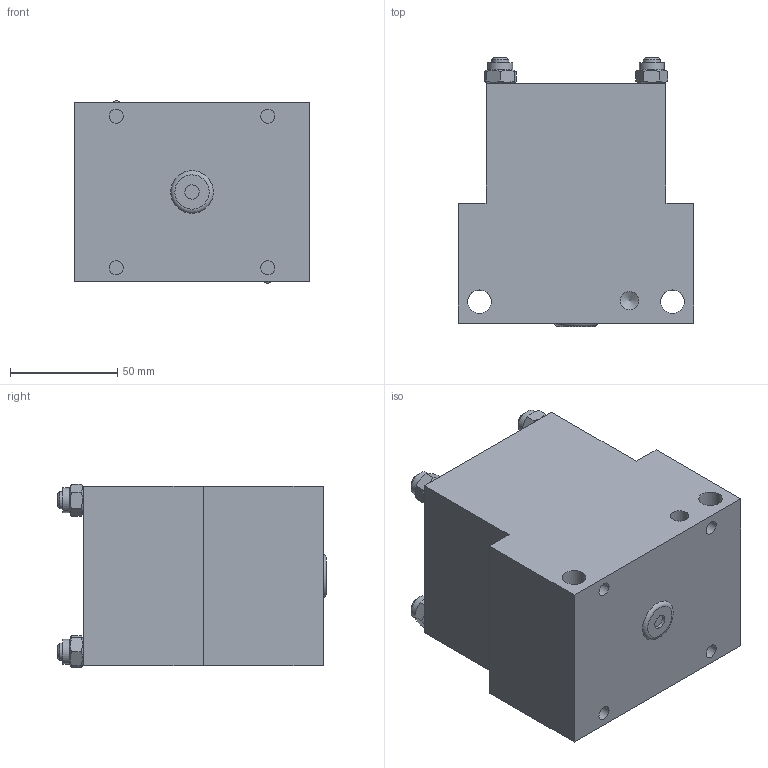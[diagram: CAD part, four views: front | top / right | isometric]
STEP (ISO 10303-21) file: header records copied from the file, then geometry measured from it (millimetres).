
FILE_DESCRIPTION((''),'2;1');
FILE_NAME('C:\VaultWork\Zeichnungen\Maßblätter\Multizylinder\M 75\M75-30\M01783-4-0 Maßblatt Multizylinder M75-2-30.stp','2013-06-17T11:18:37',('Sergeew'),(''),'Autodesk Inventor 2012','Autodesk Inventor 2012','');
FILE_SCHEMA(('AUTOMOTIVE_DESIGN { 1 0 10303 214 1 1 1 1 }'));
Length unit declared in the file: millimetre
Products named in the file (1): M01783-4-0 Maßblatt Multizylinder M75-2-30
Bounding box: 110 x 125.5 x 85.72 mm (x, y, z)
Volume: 892357.7 mm3; surface area: 73435.4 mm2
Topology: 1 solids, 5 shells, 108 faces, 235 edges, 156 vertices
Faces by surface type: plane 61, cylinder 25, cone 21, torus 1
Full cylindrical faces by diameter (mm): 6.647 x5, 8 x8, 8.566 x2, 9 x4, 11 x2, 11.6 x4
Entity records: 2577 total; most frequent: CARTESIAN_POINT 501, DIRECTION 402, ORIENTED_EDGE 328, EDGE_LOOP 178, AXIS2_PLACEMENT_3D 177, EDGE_CURVE 164, VERTEX_POINT 132, FACE_OUTER_BOUND 108
